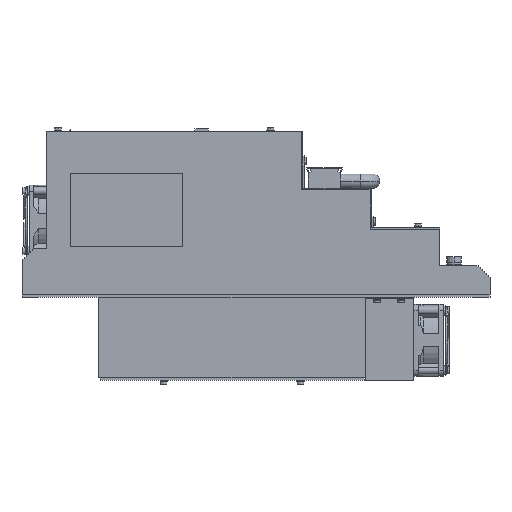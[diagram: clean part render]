
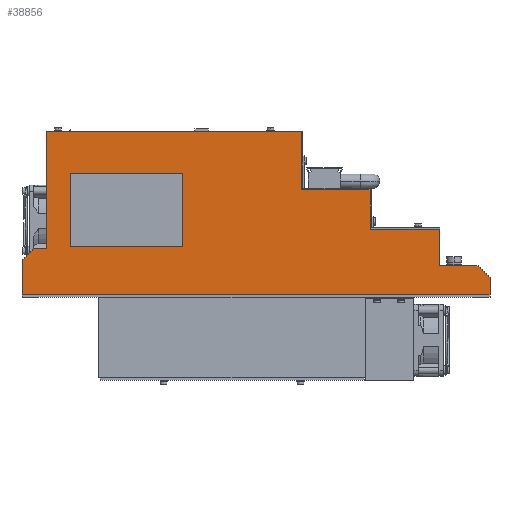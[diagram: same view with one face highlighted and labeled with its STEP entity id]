
A CAD part, left-side view. The second image highlights one B-rep face of the part: STEP entity #38856.
In plain terms, the highlighted planar face has unit normal (-1, 0, 0).
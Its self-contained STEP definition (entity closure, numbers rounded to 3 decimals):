
#38836 = EDGE_CURVE ( 'NONE', #38989, #38837, #89629, .T. ) ;
#38837 = VERTEX_POINT ( 'NONE', #89624 ) ;
#38840 = ORIENTED_EDGE ( 'NONE', *, *, #38842, .T. ) ;
#38842 = EDGE_CURVE ( 'NONE', #38837, #38844, #89623, .T. ) ;
#38844 = VERTEX_POINT ( 'NONE', #89619 ) ;
#38856 = ADVANCED_FACE ( 'NONE', ( #89607, #89606 ), #89605, .F. ) ;
#38857 = EDGE_LOOP ( 'NONE', ( #38859, #38866, #38978, #38980 ) ) ;
#38859 = ORIENTED_EDGE ( 'NONE', *, *, #38862, .F. ) ;
#38862 = EDGE_CURVE ( 'NONE', #38864, #38865, #89667, .T. ) ;
#38864 = VERTEX_POINT ( 'NONE', #89663 ) ;
#38865 = VERTEX_POINT ( 'NONE', #89662 ) ;
#38866 = ORIENTED_EDGE ( 'NONE', *, *, #38867, .F. ) ;
#38867 = EDGE_CURVE ( 'NONE', #38868, #38864, #89661, .T. ) ;
#38868 = VERTEX_POINT ( 'NONE', #89657 ) ;
#38870 = VERTEX_POINT ( 'NONE', #89656 ) ;
#38929 = ORIENTED_EDGE ( 'NONE', *, *, #38931, .T. ) ;
#38931 = EDGE_CURVE ( 'NONE', #38977, #38933, #89729, .T. ) ;
#38933 = VERTEX_POINT ( 'NONE', #89725 ) ;
#38935 = ORIENTED_EDGE ( 'NONE', *, *, #38938, .T. ) ;
#38938 = EDGE_CURVE ( 'NONE', #38933, #38940, #89724, .T. ) ;
#38940 = VERTEX_POINT ( 'NONE', #89720 ) ;
#38941 = ORIENTED_EDGE ( 'NONE', *, *, #38942, .F. ) ;
#38942 = EDGE_CURVE ( 'NONE', #38943, #38940, #89719, .T. ) ;
#38943 = VERTEX_POINT ( 'NONE', #89715 ) ;
#38945 = ORIENTED_EDGE ( 'NONE', *, *, #38947, .F. ) ;
#38947 = EDGE_CURVE ( 'NONE', #91524, #38943, #89714, .T. ) ;
#38949 = ORIENTED_EDGE ( 'NONE', *, *, #91565, .F. ) ;
#38953 = ORIENTED_EDGE ( 'NONE', *, *, #38954, .T. ) ;
#38954 = EDGE_CURVE ( 'NONE', #38844, #78676, #89703, .T. ) ;
#38955 = ORIENTED_EDGE ( 'NONE', *, *, #78675, .F. ) ;
#38956 = ORIENTED_EDGE ( 'NONE', *, *, #38959, .T. ) ;
#38959 = EDGE_CURVE ( 'NONE', #78619, #38961, #89699, .T. ) ;
#38961 = VERTEX_POINT ( 'NONE', #89759 ) ;
#38963 = ORIENTED_EDGE ( 'NONE', *, *, #38964, .F. ) ;
#38964 = EDGE_CURVE ( 'NONE', #38965, #38961, #89757, .T. ) ;
#38965 = VERTEX_POINT ( 'NONE', #89753 ) ;
#38966 = ORIENTED_EDGE ( 'NONE', *, *, #38968, .F. ) ;
#38968 = EDGE_CURVE ( 'NONE', #38970, #38965, #89752, .T. ) ;
#38970 = VERTEX_POINT ( 'NONE', #89748 ) ;
#38972 = ORIENTED_EDGE ( 'NONE', *, *, #38974, .F. ) ;
#38974 = EDGE_CURVE ( 'NONE', #38977, #38970, #89747, .T. ) ;
#38977 = VERTEX_POINT ( 'NONE', #89743 ) ;
#38978 = ORIENTED_EDGE ( 'NONE', *, *, #38979, .F. ) ;
#38979 = EDGE_CURVE ( 'NONE', #38870, #38868, #89742, .T. ) ;
#38980 = ORIENTED_EDGE ( 'NONE', *, *, #38981, .F. ) ;
#38981 = EDGE_CURVE ( 'NONE', #38865, #38870, #89738, .T. ) ;
#38985 = EDGE_LOOP ( 'NONE', ( #38987, #38991, #38840, #38953, #38955, #38956, #38963, #38966, #38972, #38929, #38935, #38941, #38945, #38949 ) ) ;
#38987 = ORIENTED_EDGE ( 'NONE', *, *, #38988, .T. ) ;
#38988 = EDGE_CURVE ( 'NONE', #91569, #38989, #89734, .T. ) ;
#38989 = VERTEX_POINT ( 'NONE', #89730 ) ;
#38991 = ORIENTED_EDGE ( 'NONE', *, *, #38836, .T. ) ;
#51186 = CARTESIAN_POINT ( 'NONE',  ( -12.5, -12.5, 138. ) ) ;
#51405 = CARTESIAN_POINT ( 'NONE',  ( -12.5, -225.3, 138. ) ) ;
#51407 = DIRECTION ( 'NONE',  ( 0., -1., 0. ) ) ;
#51409 = VECTOR ( 'NONE', #51407, 1000. ) ;
#51411 = CARTESIAN_POINT ( 'NONE',  ( -12.5, -12.5, 138. ) ) ;
#51413 = LINE ( 'NONE', #51411, #51409 ) ;
#65652 = CARTESIAN_POINT ( 'NONE',  ( -12.5, -340.5, 26. ) ) ;
#65774 = DIRECTION ( 'NONE',  ( 0., 0., -1. ) ) ;
#65776 = VECTOR ( 'NONE', #65774, 1000. ) ;
#65778 = CARTESIAN_POINT ( 'NONE',  ( -12.5, -340.5, 540.55 ) ) ;
#65780 = LINE ( 'NONE', #65778, #65776 ) ;
#65893 = CARTESIAN_POINT ( 'NONE',  ( -12.5, -340.5, 56.5 ) ) ;
#78619 = VERTEX_POINT ( 'NONE', #51186 ) ;
#78675 = EDGE_CURVE ( 'NONE', #78619, #78676, #51413, .T. ) ;
#78676 = VERTEX_POINT ( 'NONE', #51405 ) ;
#89601 = DIRECTION ( 'NONE',  ( 0., 1., 0. ) ) ;
#89602 = DIRECTION ( 'NONE',  ( 1., 0., 0. ) ) ;
#89603 = CARTESIAN_POINT ( 'NONE',  ( -12.5, -12.5, 540.55 ) ) ;
#89604 = AXIS2_PLACEMENT_3D ( 'NONE', #89603, #89602, #89601 ) ;
#89605 = PLANE ( 'NONE',  #89604 ) ;
#89606 = FACE_OUTER_BOUND ( 'NONE', #38985, .T. ) ;
#89607 = FACE_BOUND ( 'NONE', #38857, .T. ) ;
#89619 = CARTESIAN_POINT ( 'NONE',  ( -12.5, -225.3, 89.5 ) ) ;
#89620 = DIRECTION ( 'NONE',  ( 0., 1., 0. ) ) ;
#89621 = VECTOR ( 'NONE', #89620, 1000. ) ;
#89622 = CARTESIAN_POINT ( 'NONE',  ( -12.5, -282.5, 89.5 ) ) ;
#89623 = LINE ( 'NONE', #89622, #89621 ) ;
#89624 = CARTESIAN_POINT ( 'NONE',  ( -12.5, -282.5, 89.5 ) ) ;
#89626 = DIRECTION ( 'NONE',  ( 0., 0., 1. ) ) ;
#89627 = VECTOR ( 'NONE', #89626, 1000. ) ;
#89628 = CARTESIAN_POINT ( 'NONE',  ( -12.5, -282.5, 56.5 ) ) ;
#89629 = LINE ( 'NONE', #89628, #89627 ) ;
#89656 = CARTESIAN_POINT ( 'NONE',  ( -12.5, -32.5, 103. ) ) ;
#89657 = CARTESIAN_POINT ( 'NONE',  ( -12.5, -32.5, 42. ) ) ;
#89658 = DIRECTION ( 'NONE',  ( 0., -1., 0. ) ) ;
#89659 = VECTOR ( 'NONE', #89658, 1000. ) ;
#89660 = CARTESIAN_POINT ( 'NONE',  ( -12.5, -32.5, 42. ) ) ;
#89661 = LINE ( 'NONE', #89660, #89659 ) ;
#89662 = CARTESIAN_POINT ( 'NONE',  ( -12.5, -126.5, 103. ) ) ;
#89663 = CARTESIAN_POINT ( 'NONE',  ( -12.5, -126.5, 42. ) ) ;
#89664 = DIRECTION ( 'NONE',  ( 0., 0., 1. ) ) ;
#89665 = VECTOR ( 'NONE', #89664, 1000. ) ;
#89666 = CARTESIAN_POINT ( 'NONE',  ( -12.5, -126.5, 42. ) ) ;
#89667 = LINE ( 'NONE', #89666, #89665 ) ;
#89699 = LINE ( 'NONE', #89762, #89761 ) ;
#89700 = DIRECTION ( 'NONE',  ( 0., 0., 1. ) ) ;
#89701 = VECTOR ( 'NONE', #89700, 1000. ) ;
#89702 = CARTESIAN_POINT ( 'NONE',  ( -12.5, -225.3, 89.5 ) ) ;
#89703 = LINE ( 'NONE', #89702, #89701 ) ;
#89711 = DIRECTION ( 'NONE',  ( 0., -1., 0. ) ) ;
#89712 = VECTOR ( 'NONE', #89711, 1000. ) ;
#89713 = CARTESIAN_POINT ( 'NONE',  ( -12.5, -340.5, 26. ) ) ;
#89714 = LINE ( 'NONE', #89713, #89712 ) ;
#89715 = CARTESIAN_POINT ( 'NONE',  ( -12.5, -372.5, 26. ) ) ;
#89716 = DIRECTION ( 'NONE',  ( 0., -0.707, -0.707 ) ) ;
#89717 = VECTOR ( 'NONE', #89716, 1000. ) ;
#89718 = CARTESIAN_POINT ( 'NONE',  ( -12.5, -382.5, 16. ) ) ;
#89719 = LINE ( 'NONE', #89718, #89717 ) ;
#89720 = CARTESIAN_POINT ( 'NONE',  ( -12.5, -382.5, 16. ) ) ;
#89721 = DIRECTION ( 'NONE',  ( 0., 0., 1. ) ) ;
#89722 = VECTOR ( 'NONE', #89721, 1000. ) ;
#89723 = CARTESIAN_POINT ( 'NONE',  ( -12.5, -382.5, -466.722 ) ) ;
#89724 = LINE ( 'NONE', #89723, #89722 ) ;
#89725 = CARTESIAN_POINT ( 'NONE',  ( -12.5, -382.5, 2. ) ) ;
#89726 = DIRECTION ( 'NONE',  ( 0., -1., 0. ) ) ;
#89727 = VECTOR ( 'NONE', #89726, 1000. ) ;
#89728 = CARTESIAN_POINT ( 'NONE',  ( -12.5, -382.5, 2. ) ) ;
#89729 = LINE ( 'NONE', #89728, #89727 ) ;
#89730 = CARTESIAN_POINT ( 'NONE',  ( -12.5, -282.5, 56.5 ) ) ;
#89731 = DIRECTION ( 'NONE',  ( 0., 1., 0. ) ) ;
#89732 = VECTOR ( 'NONE', #89731, 1000. ) ;
#89733 = CARTESIAN_POINT ( 'NONE',  ( -12.5, -340.5, 56.5 ) ) ;
#89734 = LINE ( 'NONE', #89733, #89732 ) ;
#89735 = DIRECTION ( 'NONE',  ( 0., 1., 0. ) ) ;
#89736 = VECTOR ( 'NONE', #89735, 1000. ) ;
#89737 = CARTESIAN_POINT ( 'NONE',  ( -12.5, -32.5, 103. ) ) ;
#89738 = LINE ( 'NONE', #89737, #89736 ) ;
#89739 = DIRECTION ( 'NONE',  ( 0., 0., -1. ) ) ;
#89740 = VECTOR ( 'NONE', #89739, 1000. ) ;
#89741 = CARTESIAN_POINT ( 'NONE',  ( -12.5, -32.5, 42. ) ) ;
#89742 = LINE ( 'NONE', #89741, #89740 ) ;
#89743 = CARTESIAN_POINT ( 'NONE',  ( -12.5, 7.5, 2. ) ) ;
#89744 = DIRECTION ( 'NONE',  ( 0., 0., 1. ) ) ;
#89745 = VECTOR ( 'NONE', #89744, 1000. ) ;
#89746 = CARTESIAN_POINT ( 'NONE',  ( -12.5, 7.5, -466.722 ) ) ;
#89747 = LINE ( 'NONE', #89746, #89745 ) ;
#89748 = CARTESIAN_POINT ( 'NONE',  ( -12.5, 7.5, 30.5 ) ) ;
#89749 = DIRECTION ( 'NONE',  ( 0., -0.707, 0.707 ) ) ;
#89750 = VECTOR ( 'NONE', #89749, 1000. ) ;
#89751 = CARTESIAN_POINT ( 'NONE',  ( -12.5, 7.5, 30.5 ) ) ;
#89752 = LINE ( 'NONE', #89751, #89750 ) ;
#89753 = CARTESIAN_POINT ( 'NONE',  ( -12.5, -2.5, 40.5 ) ) ;
#89754 = DIRECTION ( 'NONE',  ( 0., -1., 0. ) ) ;
#89755 = VECTOR ( 'NONE', #89754, 1000. ) ;
#89756 = CARTESIAN_POINT ( 'NONE',  ( -12.5, -12.5, 40.5 ) ) ;
#89757 = LINE ( 'NONE', #89756, #89755 ) ;
#89759 = CARTESIAN_POINT ( 'NONE',  ( -12.5, -12.5, 40.5 ) ) ;
#89760 = DIRECTION ( 'NONE',  ( 0., 0., -1. ) ) ;
#89761 = VECTOR ( 'NONE', #89760, 1000. ) ;
#89762 = CARTESIAN_POINT ( 'NONE',  ( -12.5, -12.5, 540.55 ) ) ;
#91524 = VERTEX_POINT ( 'NONE', #65652 ) ;
#91565 = EDGE_CURVE ( 'NONE', #91569, #91524, #65780, .T. ) ;
#91569 = VERTEX_POINT ( 'NONE', #65893 ) ;
